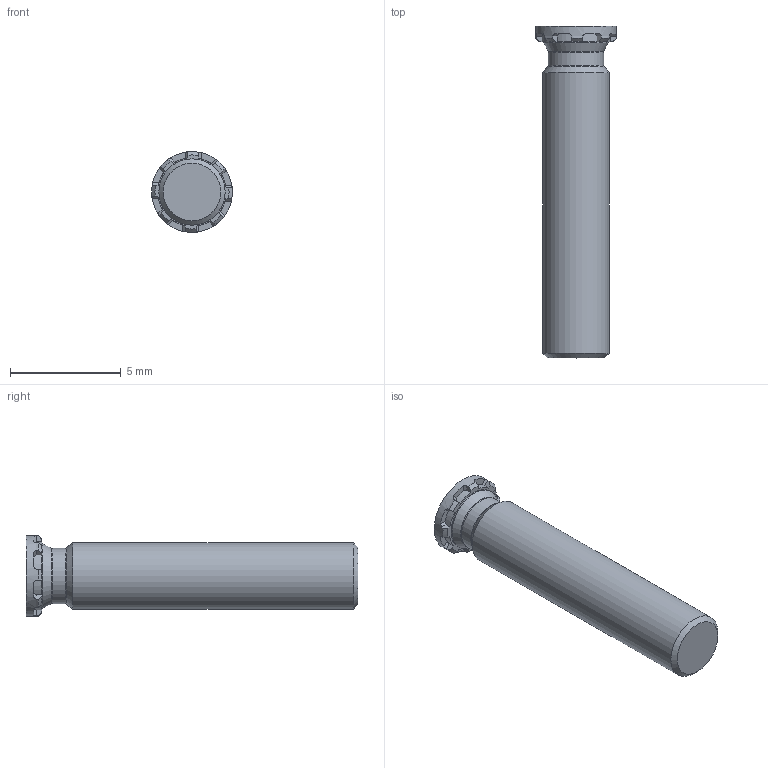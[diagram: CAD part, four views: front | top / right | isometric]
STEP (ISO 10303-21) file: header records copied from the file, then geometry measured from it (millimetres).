
FILE_DESCRIPTION(/* description */ (''),/* implementation_level */ '2;1');
FILE_NAME(/* name */ 'C:\Users\keval.kumar\Desktop\Fastit\Clinch Screw- Reduced FH Range\M3\Clinch Screw-Reduced FH Range_M3x15.stp',/* time_stamp */ '2024-03-12T12:54:54+05:00',/* author */ ('keval.kumar'),/* organization */ (''),/* preprocessor_version */ 'ST-DEVELOPER v18.1',/* originating_system */ 'Autodesk Inventor 2022',/* authorisation */ '');
FILE_SCHEMA (('AUTOMOTIVE_DESIGN { 1 0 10303 214 3 1 1 }'));
Length unit declared in the file: millimetre
Products named in the file (1): Clinch Screw-Reduced FH Range_M3x15
Bounding box: 3.65 x 15 x 3.65 mm (x, y, z)
Volume: 105.3 mm3; surface area: 162.7 mm2
Topology: 1 solids, 1 shells, 68 faces, 193 edges, 128 vertices
Faces by surface type: plane 43, cylinder 12, cone 11, torus 2
Full cylindrical faces by diameter (mm): 2.5 x1, 2.9 x1, 3 x1, 3.65 x1
Entity records: 2278 total; most frequent: CARTESIAN_POINT 422, DIRECTION 405, ORIENTED_EDGE 386, EDGE_CURVE 193, AXIS2_PLACEMENT_3D 159, VERTEX_POINT 128, LINE 87, VECTOR 87
